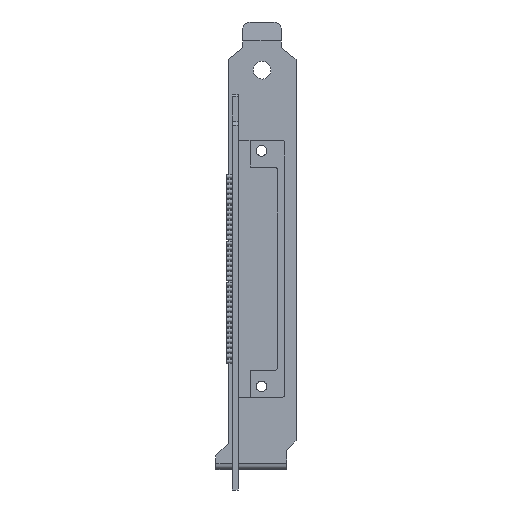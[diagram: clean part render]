
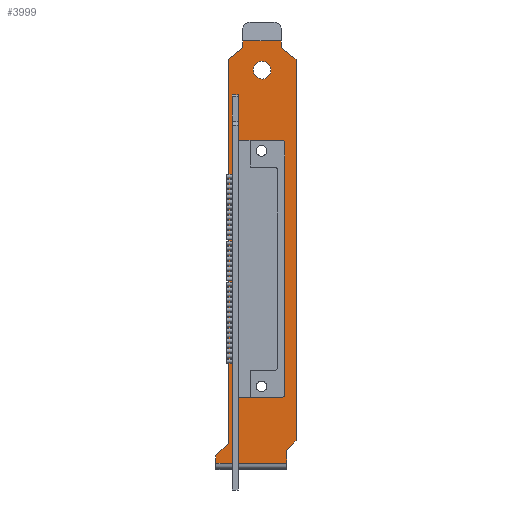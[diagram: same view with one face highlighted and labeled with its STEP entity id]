
A CAD part, front view. The second image highlights one B-rep face of the part: STEP entity #3999.
In plain terms, the highlighted planar face has unit normal (0, -1, 0).
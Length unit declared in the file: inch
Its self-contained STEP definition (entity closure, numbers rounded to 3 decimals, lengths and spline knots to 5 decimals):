
#315=DIRECTION('',(1.,0.,0.));
#316=VECTOR('',#315,0.412);
#317=CARTESIAN_POINT('',(0.108,0.33,0.764));
#318=LINE('',#317,#316);
#319=DIRECTION('',(0.,0.,-1.));
#320=VECTOR('',#319,0.074);
#321=CARTESIAN_POINT('',(0.52,0.33,0.764));
#322=LINE('',#321,#320);
#323=DIRECTION('',(-0.788,0.,0.616));
#324=VECTOR('',#323,0.1967);
#325=CARTESIAN_POINT('',(0.675,0.33,0.5689));
#326=LINE('',#325,#324);
#327=DIRECTION('',(0.707,0.,0.707));
#328=VECTOR('',#327,0.14142);
#329=CARTESIAN_POINT('',(0.575,0.33,-3.583));
#330=LINE('',#329,#328);
#331=DIRECTION('',(0.,0.,1.));
#332=VECTOR('',#331,0.137);
#333=CARTESIAN_POINT('',(0.575,0.33,-3.72));
#334=LINE('',#333,#332);
#335=DIRECTION('',(-1.,0.,0.));
#336=VECTOR('',#335,0.75);
#337=CARTESIAN_POINT('',(0.575,0.33,-3.72));
#338=LINE('',#337,#336);
#339=DIRECTION('',(-0.707,0.,-0.707));
#340=VECTOR('',#339,0.18102);
#341=CARTESIAN_POINT('',(-0.047,0.33,-3.514));
#342=LINE('',#341,#340);
#343=DIRECTION('',(0.,0.,-1.));
#344=VECTOR('',#343,4.0829);
#345=CARTESIAN_POINT('',(-0.047,0.33,0.5689));
#346=LINE('',#345,#344);
#347=DIRECTION('',(-0.788,0.,-0.616));
#348=VECTOR('',#347,0.1967);
#349=CARTESIAN_POINT('',(0.108,0.33,0.69));
#350=LINE('',#349,#348);
#351=DIRECTION('',(0.,0.,-1.));
#352=VECTOR('',#351,0.074);
#353=CARTESIAN_POINT('',(0.108,0.33,0.764));
#354=LINE('',#353,#352);
#355=CARTESIAN_POINT('',(0.314,0.33,0.453));
#356=DIRECTION('',(0.,1.,0.));
#357=DIRECTION('',(0.,0.,1.));
#358=AXIS2_PLACEMENT_3D('',#355,#356,#357);
#360=CARTESIAN_POINT('',(0.314,0.33,0.453));
#361=DIRECTION('',(0.,1.,0.));
#362=DIRECTION('',(0.,0.,-1.));
#363=AXIS2_PLACEMENT_3D('',#360,#361,#362);
#365=DIRECTION('',(0.,0.,1.));
#366=VECTOR('',#365,2.729);
#367=CARTESIAN_POINT('',(0.062,0.33,-3.0185));
#368=LINE('',#367,#366);
#369=DIRECTION('',(1.,0.,0.));
#370=VECTOR('',#369,0.464);
#371=CARTESIAN_POINT('',(0.062,0.33,-3.0185));
#372=LINE('',#371,#370);
#373=CARTESIAN_POINT('',(0.526,0.33,-2.9885));
#374=DIRECTION('',(0.,1.,0.));
#375=DIRECTION('',(1.,0.,0.));
#376=AXIS2_PLACEMENT_3D('',#373,#374,#375);
#378=DIRECTION('',(0.,0.,1.));
#379=VECTOR('',#378,2.669);
#380=CARTESIAN_POINT('',(0.556,0.33,-2.9885));
#381=LINE('',#380,#379);
#382=CARTESIAN_POINT('',(0.526,0.33,-0.3195));
#383=DIRECTION('',(0.,-1.,0.));
#384=DIRECTION('',(1.,0.,0.));
#385=AXIS2_PLACEMENT_3D('',#382,#383,#384);
#387=DIRECTION('',(1.,0.,0.));
#388=VECTOR('',#387,0.464);
#389=CARTESIAN_POINT('',(0.062,0.33,-0.2895));
#390=LINE('',#389,#388);
#437=DIRECTION('',(0.,0.,1.));
#438=VECTOR('',#437,0.078);
#439=CARTESIAN_POINT('',(-0.175,0.33,-3.72));
#440=LINE('',#439,#438);
#593=DIRECTION('',(0.,0.,1.));
#594=VECTOR('',#593,4.0519);
#595=CARTESIAN_POINT('',(0.675,0.33,-3.483));
#596=LINE('',#595,#594);
#2622=CARTESIAN_POINT('',(-0.175,0.33,-3.72));
#2624=VERTEX_POINT('',#2622);
#2625=CARTESIAN_POINT('',(0.575,0.33,-3.72));
#2627=VERTEX_POINT('',#2625);
#2629=CARTESIAN_POINT('',(0.575,0.33,-3.583));
#2630=VERTEX_POINT('',#2629);
#2631=CARTESIAN_POINT('',(0.675,0.33,-3.483));
#2632=VERTEX_POINT('',#2631);
#2633=CARTESIAN_POINT('',(0.108,0.33,0.69));
#2634=CARTESIAN_POINT('',(-0.047,0.33,0.5689));
#2635=VERTEX_POINT('',#2633);
#2636=VERTEX_POINT('',#2634);
#2637=CARTESIAN_POINT('',(-0.047,0.33,-3.514));
#2638=VERTEX_POINT('',#2637);
#2639=CARTESIAN_POINT('',(-0.175,0.33,-3.642));
#2640=VERTEX_POINT('',#2639);
#2641=CARTESIAN_POINT('',(0.675,0.33,0.5689));
#2642=CARTESIAN_POINT('',(0.52,0.33,0.69));
#2643=VERTEX_POINT('',#2641);
#2644=VERTEX_POINT('',#2642);
#2753=CARTESIAN_POINT('',(0.314,0.33,0.5465));
#2754=CARTESIAN_POINT('',(0.314,0.33,0.3595));
#2755=VERTEX_POINT('',#2753);
#2756=VERTEX_POINT('',#2754);
#2757=CARTESIAN_POINT('',(0.108,0.33,0.764));
#2758=VERTEX_POINT('',#2757);
#2759=CARTESIAN_POINT('',(0.52,0.33,0.764));
#2760=VERTEX_POINT('',#2759);
#3073=CARTESIAN_POINT('',(0.062,0.33,-3.0185));
#3074=CARTESIAN_POINT('',(0.062,0.33,-0.2895));
#3075=VERTEX_POINT('',#3073);
#3076=VERTEX_POINT('',#3074);
#3077=CARTESIAN_POINT('',(0.526,0.33,-3.0185));
#3078=VERTEX_POINT('',#3077);
#3079=CARTESIAN_POINT('',(0.526,0.33,-0.2895));
#3080=VERTEX_POINT('',#3079);
#3081=CARTESIAN_POINT('',(0.556,0.33,-2.9885));
#3082=CARTESIAN_POINT('',(0.556,0.33,-0.3195));
#3083=VERTEX_POINT('',#3081);
#3084=VERTEX_POINT('',#3082);
#3949=CARTESIAN_POINT('',(0.675,0.33,-3.72));
#3950=DIRECTION('',(0.,1.,0.));
#3951=DIRECTION('',(0.,0.,1.));
#3952=AXIS2_PLACEMENT_3D('',#3949,#3950,#3951);
#3953=PLANE('',#3952);
#3955=ORIENTED_EDGE('',*,*,#3954,.T.);
#3957=ORIENTED_EDGE('',*,*,#3956,.T.);
#3959=ORIENTED_EDGE('',*,*,#3958,.F.);
#3961=ORIENTED_EDGE('',*,*,#3960,.F.);
#3963=ORIENTED_EDGE('',*,*,#3962,.F.);
#3965=ORIENTED_EDGE('',*,*,#3964,.F.);
#3966=ORIENTED_EDGE('',*,*,#3645,.T.);
#3968=ORIENTED_EDGE('',*,*,#3967,.T.);
#3970=ORIENTED_EDGE('',*,*,#3969,.F.);
#3972=ORIENTED_EDGE('',*,*,#3971,.F.);
#3974=ORIENTED_EDGE('',*,*,#3973,.F.);
#3976=ORIENTED_EDGE('',*,*,#3975,.F.);
#3977=EDGE_LOOP('',(#3955,#3957,#3959,#3961,#3963,#3965,#3966,#3968,#3970,#3972,
#3974,#3976));
#3978=FACE_OUTER_BOUND('',#3977,.F.);
#3980=ORIENTED_EDGE('',*,*,#3979,.F.);
#3982=ORIENTED_EDGE('',*,*,#3981,.F.);
#3983=EDGE_LOOP('',(#3980,#3982));
#3984=FACE_BOUND('',#3983,.F.);
#3986=ORIENTED_EDGE('',*,*,#3985,.F.);
#3988=ORIENTED_EDGE('',*,*,#3987,.T.);
#3990=ORIENTED_EDGE('',*,*,#3989,.F.);
#3992=ORIENTED_EDGE('',*,*,#3991,.T.);
#3994=ORIENTED_EDGE('',*,*,#3993,.T.);
#3996=ORIENTED_EDGE('',*,*,#3995,.F.);
#3997=EDGE_LOOP('',(#3986,#3988,#3990,#3992,#3994,#3996));
#3998=FACE_BOUND('',#3997,.F.);
#3999=ADVANCED_FACE('',(#3978,#3984,#3998),#3953,.F.);
#359=CIRCLE('',#358,0.0935);
#364=CIRCLE('',#363,0.0935);
#377=CIRCLE('',#376,0.03);
#386=CIRCLE('',#385,0.03);
#3645=EDGE_CURVE('',#2627,#2624,#338,.T.);
#3954=EDGE_CURVE('',#2758,#2760,#318,.T.);
#3956=EDGE_CURVE('',#2760,#2644,#322,.T.);
#3958=EDGE_CURVE('',#2643,#2644,#326,.T.);
#3960=EDGE_CURVE('',#2632,#2643,#596,.T.);
#3962=EDGE_CURVE('',#2630,#2632,#330,.T.);
#3964=EDGE_CURVE('',#2627,#2630,#334,.T.);
#3967=EDGE_CURVE('',#2624,#2640,#440,.T.);
#3969=EDGE_CURVE('',#2638,#2640,#342,.T.);
#3971=EDGE_CURVE('',#2636,#2638,#346,.T.);
#3973=EDGE_CURVE('',#2635,#2636,#350,.T.);
#3975=EDGE_CURVE('',#2758,#2635,#354,.T.);
#3979=EDGE_CURVE('',#2755,#2756,#359,.T.);
#3981=EDGE_CURVE('',#2756,#2755,#364,.T.);
#3985=EDGE_CURVE('',#3075,#3076,#368,.T.);
#3987=EDGE_CURVE('',#3075,#3078,#372,.T.);
#3989=EDGE_CURVE('',#3083,#3078,#377,.T.);
#3991=EDGE_CURVE('',#3083,#3084,#381,.T.);
#3993=EDGE_CURVE('',#3084,#3080,#386,.T.);
#3995=EDGE_CURVE('',#3076,#3080,#390,.T.);
